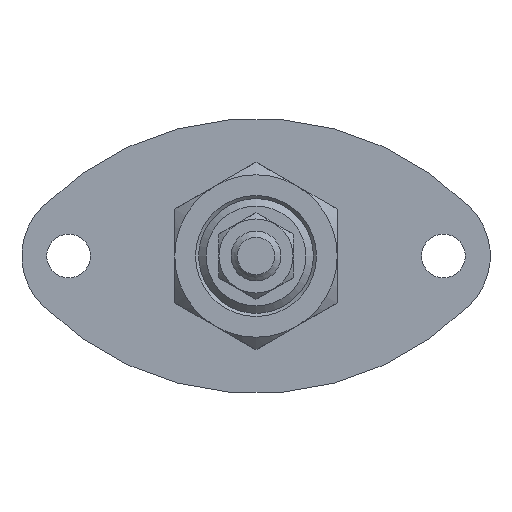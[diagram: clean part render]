
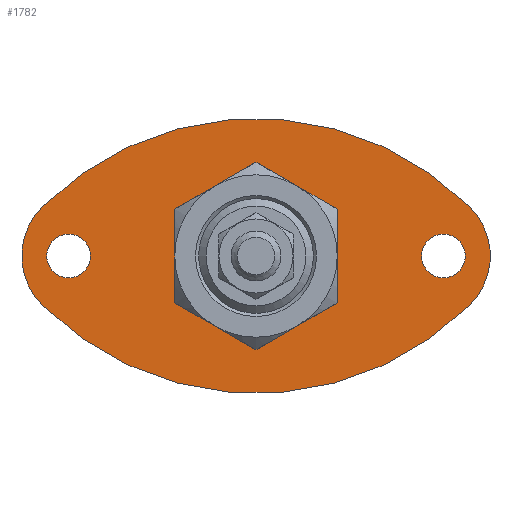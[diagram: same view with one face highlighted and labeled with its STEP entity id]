
A CAD part, front view. The second image highlights one B-rep face of the part: STEP entity #1782.
In plain terms, the highlighted planar face has unit normal (0, -1, 0).
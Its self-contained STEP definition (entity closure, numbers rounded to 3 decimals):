
#203=PLANE('',#1977);
#265=CIRCLE('',#1967,11.);
#267=CIRCLE('',#1970,48.42);
#269=CIRCLE('',#1973,11.);
#271=CIRCLE('',#1976,48.42);
#272=CIRCLE('',#1978,3.5);
#273=CIRCLE('',#1979,3.5);
#274=CIRCLE('',#1980,10.);
#544=ORIENTED_EDGE('',*,*,#701,.T.);
#545=ORIENTED_EDGE('',*,*,#702,.T.);
#546=ORIENTED_EDGE('',*,*,#703,.T.);
#547=ORIENTED_EDGE('',*,*,#700,.T.);
#548=ORIENTED_EDGE('',*,*,#691,.T.);
#549=ORIENTED_EDGE('',*,*,#695,.T.);
#550=ORIENTED_EDGE('',*,*,#698,.T.);
#691=EDGE_CURVE('',#803,#802,#265,.T.);
#695=EDGE_CURVE('',#802,#805,#267,.T.);
#698=EDGE_CURVE('',#805,#807,#269,.T.);
#700=EDGE_CURVE('',#807,#803,#271,.T.);
#701=EDGE_CURVE('',#808,#808,#272,.T.);
#702=EDGE_CURVE('',#809,#809,#273,.T.);
#703=EDGE_CURVE('',#810,#810,#274,.F.);
#802=VERTEX_POINT('',#2843);
#803=VERTEX_POINT('',#2845);
#805=VERTEX_POINT('',#2851);
#807=VERTEX_POINT('',#2857);
#808=VERTEX_POINT('',#2864);
#809=VERTEX_POINT('',#2866);
#810=VERTEX_POINT('',#2868);
#972=EDGE_LOOP('',(#544));
#973=EDGE_LOOP('',(#545));
#974=EDGE_LOOP('',(#546));
#975=EDGE_LOOP('',(#547,#548,#549,#550));
#1114=FACE_BOUND('',#972,.T.);
#1115=FACE_BOUND('',#973,.T.);
#1116=FACE_BOUND('',#974,.T.);
#1117=FACE_BOUND('',#975,.T.);
#1782=ADVANCED_FACE('',(#1114,#1115,#1116,#1117),#203,.T.);
#1967=AXIS2_PLACEMENT_3D('',#2844,#2324,#2325);
#1970=AXIS2_PLACEMENT_3D('',#2852,#2332,#2333);
#1973=AXIS2_PLACEMENT_3D('',#2858,#2339,#2340);
#1976=AXIS2_PLACEMENT_3D('',#2861,#2345,#2346);
#1977=AXIS2_PLACEMENT_3D('',#2862,#2347,#2348);
#1978=AXIS2_PLACEMENT_3D('',#2863,#2349,#2350);
#1979=AXIS2_PLACEMENT_3D('',#2865,#2351,#2352);
#1980=AXIS2_PLACEMENT_3D('',#2867,#2353,#2354);
#2324=DIRECTION('',(0.,-1.,0.));
#2325=DIRECTION('',(1.,0.,0.));
#2332=DIRECTION('',(0.,-1.,0.));
#2333=DIRECTION('',(1.,0.,0.));
#2339=DIRECTION('',(0.,-1.,0.));
#2340=DIRECTION('',(1.,0.,0.));
#2345=DIRECTION('',(0.,-1.,0.));
#2346=DIRECTION('',(1.,0.,0.));
#2347=DIRECTION('',(0.,-1.,0.));
#2348=DIRECTION('',(0.,0.,-1.));
#2349=DIRECTION('',(0.,1.,0.));
#2350=DIRECTION('',(1.,0.,0.));
#2351=DIRECTION('',(0.,1.,0.));
#2352=DIRECTION('',(1.,0.,0.));
#2353=DIRECTION('',(0.,-1.,0.));
#2354=DIRECTION('',(0.,0.,-1.));
#2843=CARTESIAN_POINT('',(34.29,-4.5,7.766));
#2844=CARTESIAN_POINT('',(26.5,-4.5,0.));
#2845=CARTESIAN_POINT('',(34.29,-4.5,-7.766));
#2851=CARTESIAN_POINT('',(-34.29,-4.5,7.766));
#2852=CARTESIAN_POINT('',(0.,-4.5,-26.42));
#2857=CARTESIAN_POINT('',(-34.29,-4.5,-7.766));
#2858=CARTESIAN_POINT('',(-26.5,-4.5,0.));
#2861=CARTESIAN_POINT('',(0.,-4.5,26.42));
#2862=CARTESIAN_POINT('',(13.25,-4.5,-13.21));
#2863=CARTESIAN_POINT('',(30.,-4.5,0.));
#2864=CARTESIAN_POINT('',(33.5,-4.5,0.));
#2865=CARTESIAN_POINT('',(-30.,-4.5,0.));
#2866=CARTESIAN_POINT('',(-26.5,-4.5,0.));
#2867=CARTESIAN_POINT('',(0.,-4.5,0.));
#2868=CARTESIAN_POINT('',(0.,-4.5,-10.));
